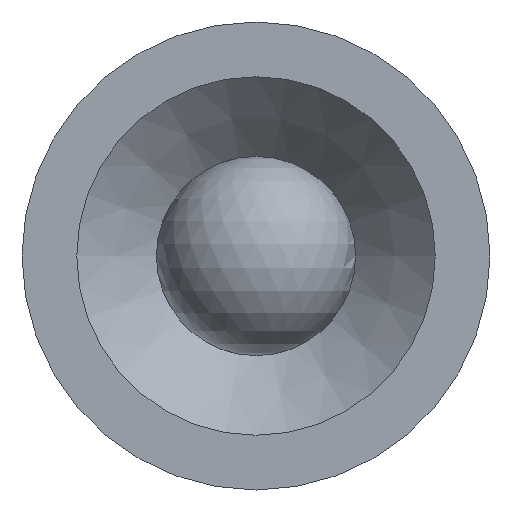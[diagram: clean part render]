
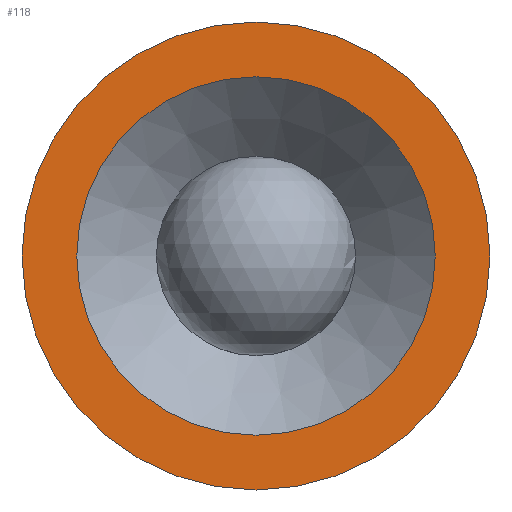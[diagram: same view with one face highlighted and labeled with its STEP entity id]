
A CAD part, left-side view. The second image highlights one B-rep face of the part: STEP entity #118.
In plain terms, the highlighted planar face has unit normal (-1, 0, 0).
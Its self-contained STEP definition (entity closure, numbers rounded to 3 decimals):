
#13=PLANE($,#136);
#21=FACE_BOUND($,#51,.T.);
#37=FACE_OUTER_BOUND($,#50,.T.);
#50=EDGE_LOOP($,(#100));
#51=EDGE_LOOP($,(#101));
#66=CIRCLE($,#135,0.914);
#67=CIRCLE($,#137,1.194);
#76=VERTEX_POINT($,#204);
#77=VERTEX_POINT($,#207);
#86=EDGE_CURVE($,#76,#76,#66,.T.);
#87=EDGE_CURVE($,#77,#77,#67,.T.);
#100=ORIENTED_EDGE($,*,*,#87,.F.);
#101=ORIENTED_EDGE($,*,*,#86,.T.);
#118=ADVANCED_FACE($,(#37,#21),#13,.T.);
#135=AXIS2_PLACEMENT_3D($,#205,#165,#166);
#136=AXIS2_PLACEMENT_3D($,#206,#167,#168);
#137=AXIS2_PLACEMENT_3D($,#208,#169,#170);
#165=DIRECTION('center_axis',(1.,0.,0.));
#166=DIRECTION('ref_axis',(0.,1.,0.));
#167=DIRECTION('center_axis',(-1.,0.,0.));
#168=DIRECTION('ref_axis',(0.,0.,1.));
#169=DIRECTION('center_axis',(1.,0.,0.));
#170=DIRECTION('ref_axis',(0.,1.,0.));
#204=CARTESIAN_POINT('',(9.22,0.914,0.));
#205=CARTESIAN_POINT('Origin',(9.22,0.,0.));
#206=CARTESIAN_POINT('Origin',(9.22,1.054,0.));
#207=CARTESIAN_POINT('',(9.22,1.194,0.));
#208=CARTESIAN_POINT('Origin',(9.22,0.,0.));
